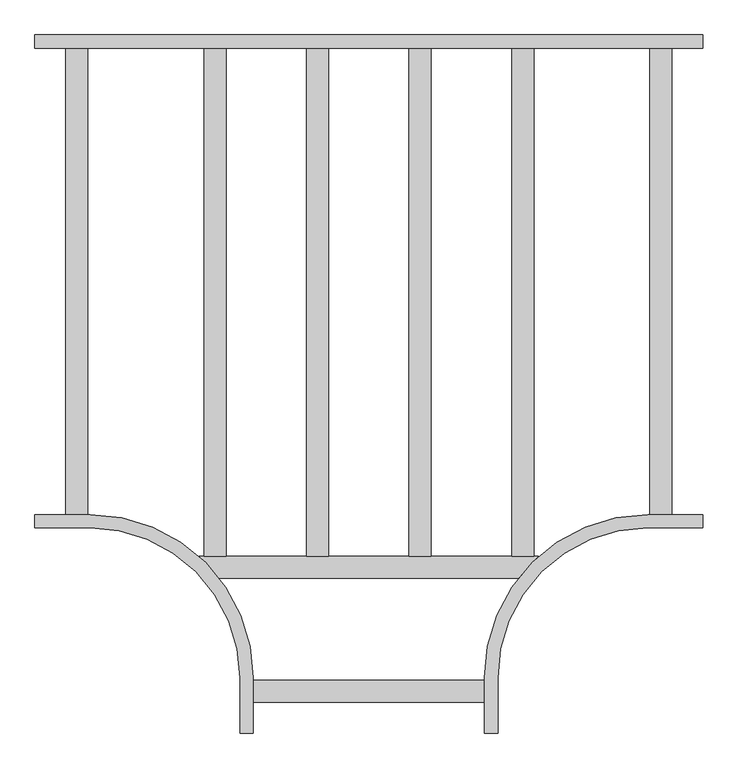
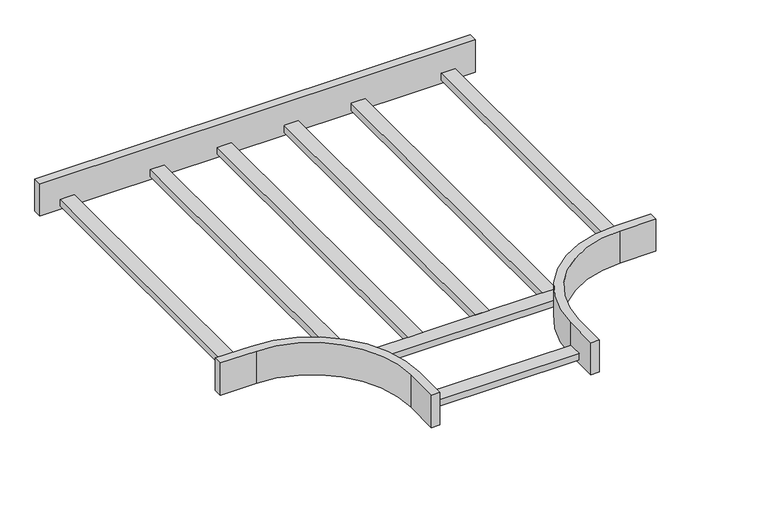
"""IFC4 building model written with IfcOpenShell, lengths in millimetres: cable carrier fitting geometry, Legrand_CableLadder_Swifts_Topaz_Tee-300R-13 : Hot Dip Galvanised (after manufacture)."""

from ifc_helpers import new_model, si_unit, point, frame, frame_2d, origin, place, context, project, spatial, polyline, circle_curve, trimmed, segment, composite_curve, outline, extrude, source, transform, mapped, element, save


def cable_carrier_fitting_1cec5583(model_context):
    return source(origin(), model_context, "Body", "SweptSolid", [
        extrude(outline(polyline([(-273.875, 446.5), (-273.875, -526.5), (-315.875, -526.5), (-315.875, 446.5), (-273.875, 446.5)])), frame((0.0, 0.0, -40.0), z_axis=(0.0, 0.0, 1.0), x_axis=(1.0, 0.0, 0.0)), (0.0, 0.0, 1.0), 21.0),
        extrude(outline(polyline([(273.875, 446.5), (315.875, 446.5), (315.875, -526.5), (273.875, -526.5), (273.875, 446.5)])), frame((0.0, 0.0, -40.0), z_axis=(0.0, 0.0, 1.0), x_axis=(1.0, 0.0, 0.0)), (0.0, 0.0, 1.0), 21.0),
        extrude(outline(polyline([(-119.2916667, -526.5), (-119.2916667, 446.5), (-77.2916667, 446.5), (-77.2916667, -526.5), (-119.2916667, -526.5)])), frame((0.0, 0.0, -40.0), z_axis=(0.0, 0.0, 1.0), x_axis=(1.0, 0.0, 0.0)), (0.0, 0.0, 1.0), 21.0),
        extrude(outline(polyline([(77.2916667, -526.5), (77.2916667, 446.5), (119.2916667, 446.5), (119.2916667, -526.5), (77.2916667, -526.5)])), frame((0.0, 0.0, -40.0), z_axis=(0.0, 0.0, 1.0), x_axis=(1.0, 0.0, 0.0)), (0.0, 0.0, 1.0), 21.0),
        extrude(outline(polyline([(221.5, -763.75), (221.5, -805.75), (-221.5, -805.75), (-221.5, -763.75), (221.5, -763.75)])), frame((0.0, 0.0, -40.0), z_axis=(0.0, 0.0, 1.0), x_axis=(1.0, 0.0, 0.0)), (0.0, 0.0, 1.0), 21.0),
        extrude(outline(polyline([(-580.75, -446.5), (-580.75, 446.5), (-538.75, 446.5), (-538.75, -446.5), (-580.75, -446.5)])), frame((0.0, 0.0, -40.0), z_axis=(0.0, 0.0, 1.0), x_axis=(1.0, 0.0, 0.0)), (0.0, 0.0, 1.0), 21.0),
        extrude(outline(polyline([(580.75, -446.5), (538.75, -446.5), (538.75, 446.5), (580.75, 446.5), (580.75, -446.5)])), frame((0.0, 0.0, -40.0), z_axis=(0.0, 0.0, 1.0), x_axis=(1.0, 0.0, 0.0)), (0.0, 0.0, 1.0), 21.0),
        extrude(outline(composite_curve([segment(polyline([(286.4052906, -568.5), (-286.4052906, -568.5)]), True, "CONTINUOUS"), segment(trimmed(circle_curve(frame_2d((-534.25, -759.25)), 312.75), [point((-286.4052906, -568.5))], [point((-325.3481092, -526.5))], True, "CARTESIAN"), True, "CONTINUOUS"), segment(polyline([(-325.3481092, -526.5), (325.3481092, -526.5)]), True, "CONTINUOUS"), segment(trimmed(circle_curve(frame_2d((534.25, -759.25)), 312.75), [point((325.3481092, -526.5))], [point((286.4052906, -568.5))], True, "CARTESIAN"), True, "CONTINUOUS")], self_intersect=False)), frame((0.0, 0.0, -40.0), z_axis=(0.0, 0.0, 1.0), x_axis=(1.0, 0.0, 0.0)), (0.0, 0.0, 1.0), 21.0),
        extrude(outline(composite_curve([segment(polyline([(639.75, -446.5), (639.75, -472.0), (534.25, -472.0)]), True, "CONTINUOUS"), segment(trimmed(circle_curve(frame_2d((534.25, -759.25)), 287.25), [point((534.25, -472.0))], [point((247.0, -759.25))], True, "CARTESIAN"), True, "CONTINUOUS"), segment(polyline([(247.0, -759.25), (247.0, -864.75), (221.5, -864.75), (221.5, -759.25)]), True, "CONTINUOUS"), segment(trimmed(circle_curve(frame_2d((534.25, -759.25)), 312.75), [point((221.5, -759.25))], [point((534.25, -446.5))], False, "CARTESIAN"), True, "CONTINUOUS"), segment(polyline([(534.25, -446.5), (639.75, -446.5)]), True, "CONTINUOUS")], self_intersect=False)), frame((0.0, 0.0, -50.0), z_axis=(0.0, 0.0, 1.0), x_axis=(1.0, 0.0, 0.0)), (0.0, 0.0, 1.0), 100.0),
        extrude(outline(composite_curve([segment(polyline([(-639.75, -472.0), (-639.75, -446.5), (-534.25, -446.5)]), True, "CONTINUOUS"), segment(trimmed(circle_curve(frame_2d((-534.25, -759.25)), 312.75), [point((-534.25, -446.5))], [point((-221.5, -759.25))], False, "CARTESIAN"), True, "CONTINUOUS"), segment(polyline([(-221.5, -759.25), (-221.5, -864.75), (-247.0, -864.75), (-247.0, -759.25)]), True, "CONTINUOUS"), segment(trimmed(circle_curve(frame_2d((-534.25, -759.25)), 287.25), [point((-247.0, -759.25))], [point((-534.25, -472.0))], True, "CARTESIAN"), True, "CONTINUOUS"), segment(polyline([(-534.25, -472.0), (-639.75, -472.0)]), True, "CONTINUOUS")], self_intersect=False)), frame((0.0, 0.0, -50.0), z_axis=(0.0, 0.0, 1.0), x_axis=(1.0, 0.0, 0.0)), (0.0, 0.0, 1.0), 100.0),
        extrude(outline(polyline([(-639.75, 446.5), (-639.75, 472.0), (639.75, 472.0), (639.75, 446.5), (-639.75, 446.5)])), frame((0.0, 0.0, -50.0), z_axis=(0.0, 0.0, 1.0), x_axis=(1.0, 0.0, 0.0)), (0.0, 0.0, 1.0), 100.0),
    ])


if __name__ == "__main__":
    model = new_model("IFC4")
    model_context = context("Model", 3, world=origin())
    ifc_project = project(units=[si_unit("LENGTHUNIT", "METRE", prefix="MILLI")], contexts=[model_context])
    site = spatial("IfcSite", under=ifc_project)
    building = spatial("IfcBuilding", under=site)
    placement = place(None, origin())
    cable_carrier_fitting_shape = cable_carrier_fitting_1cec5583(model_context)
    element("IfcCableCarrierFitting", 1, ObjectType="Legrand_CableLadder_Swifts_Topaz_Tee-300R-13 : Hot Dip Galvanised (after manufacture)", at=placement, inside=building, context=model_context, shape_type="MappedRepresentation", body=[
        mapped(cable_carrier_fitting_shape, transform((0.0, 0.0, 0.0), x_axis=(1.0, 0.0, 0.0), y_axis=(0.0, 1.0, 0.0), z_axis=(0.0, 0.0, 1.0))),
    ])
    save(model, "model.ifc")
